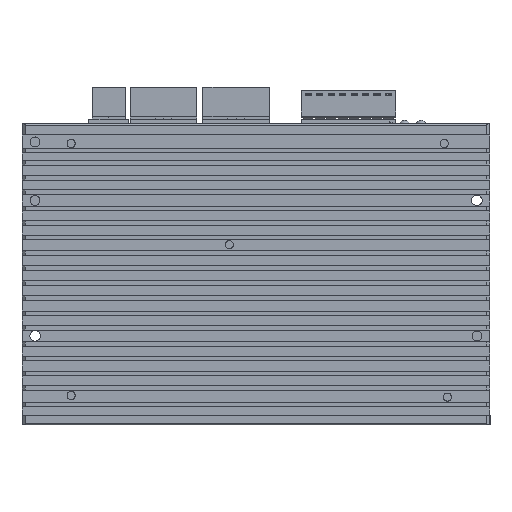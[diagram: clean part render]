
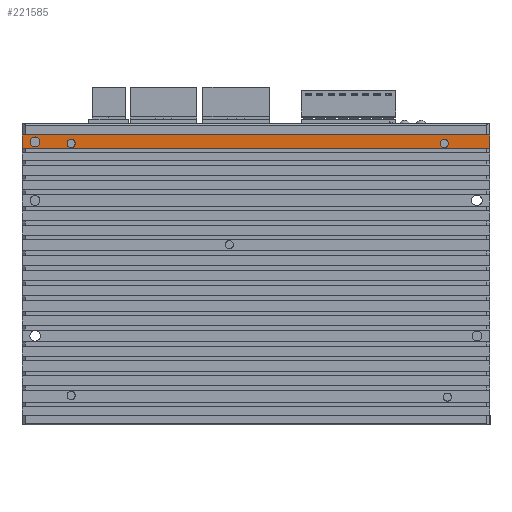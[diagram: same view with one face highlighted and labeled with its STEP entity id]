
A CAD part, front view. The second image highlights one B-rep face of the part: STEP entity #221585.
In plain terms, the highlighted planar face has unit normal (0, -1, 0).
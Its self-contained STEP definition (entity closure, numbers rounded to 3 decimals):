
#181690=DIRECTION('',(0.,0.,-1.));
#181691=VECTOR('',#181690,4.1);
#181692=CARTESIAN_POINT('',(-71.5,-3.5,
85.6));
#181693=LINE('',#181692,#181691);
#192783=DIRECTION('',(0.,0.,-1.));
#192784=VECTOR('',#192783,4.1);
#192785=CARTESIAN_POINT('',(71.5,-3.5,
85.6));
#192786=LINE('',#192785,#192784);
#192787=DIRECTION('',(-1.,0.,0.));
#192788=VECTOR('',#192787,143.);
#192789=CARTESIAN_POINT('',(71.5,-3.5,81.5));
#192790=LINE('',#192789,#192788);
#192791=CARTESIAN_POINT('',(57.499,-3.5,83.));
#192792=DIRECTION('',(0.,-1.,0.));
#192793=DIRECTION('',(-1.,0.,0.));
#192794=AXIS2_PLACEMENT_3D('',#192791,#192792,#192793);
#192796=CARTESIAN_POINT('',(57.499,-3.5,83.));
#192797=DIRECTION('',(0.,-1.,0.));
#192798=DIRECTION('',(1.,0.,0.));
#192799=AXIS2_PLACEMENT_3D('',#192796,#192797,#192798);
#192801=CARTESIAN_POINT('',(-56.5,-3.5,
83.));
#192802=DIRECTION('',(0.,-1.,0.));
#192803=DIRECTION('',(-1.,0.,0.));
#192804=AXIS2_PLACEMENT_3D('',#192801,#192802,#192803);
#192806=CARTESIAN_POINT('',(-56.5,-3.5,
83.));
#192807=DIRECTION('',(0.,-1.,0.));
#192808=DIRECTION('',(1.,0.,0.));
#192809=AXIS2_PLACEMENT_3D('',#192806,#192807,#192808);
#192811=CARTESIAN_POINT('',(-67.5,-3.5,83.5));
#192812=DIRECTION('',(0.,-1.,0.));
#192813=DIRECTION('',(0.,0.,-1.));
#192814=AXIS2_PLACEMENT_3D('',#192811,#192812,#192813);
#192816=CARTESIAN_POINT('',(-67.5,-3.5,83.5));
#192817=DIRECTION('',(0.,-1.,0.));
#192818=DIRECTION('',(0.,0.,1.));
#192819=AXIS2_PLACEMENT_3D('',#192816,#192817,#192818);
#192833=DIRECTION('',(-1.,0.,0.));
#192834=VECTOR('',#192833,143.);
#192835=CARTESIAN_POINT('',(71.5,-3.5,
85.6));
#192836=LINE('',#192835,#192834);
#199037=CARTESIAN_POINT('',(71.5,-3.5,81.5));
#199038=VERTEX_POINT('',#199037);
#199039=CARTESIAN_POINT('',(71.5,-3.5,
85.6));
#199040=VERTEX_POINT('',#199039);
#199132=CARTESIAN_POINT('',(-71.5,-3.5,
85.6));
#199133=VERTEX_POINT('',#199132);
#199299=CARTESIAN_POINT('',(-71.5,-3.5,81.5));
#199300=VERTEX_POINT('',#199299);
#199433=CARTESIAN_POINT('',(56.249,-3.5,83.));
#199434=CARTESIAN_POINT('',(58.749,-3.5,83.));
#199435=VERTEX_POINT('',#199433);
#199436=VERTEX_POINT('',#199434);
#199437=CARTESIAN_POINT('',(-57.75,-3.5,
83.));
#199438=CARTESIAN_POINT('',(-55.25,-3.5,
83.));
#199439=VERTEX_POINT('',#199437);
#199440=VERTEX_POINT('',#199438);
#199441=CARTESIAN_POINT('',(-67.5,-3.5,82.));
#199442=CARTESIAN_POINT('',(-67.5,-3.5,85.));
#199443=VERTEX_POINT('',#199441);
#199444=VERTEX_POINT('',#199442);
#221555=CARTESIAN_POINT('',(71.5,-3.5,
85.6));
#221556=DIRECTION('',(0.,1.,0.));
#221557=DIRECTION('',(0.,0.,-1.));
#221558=AXIS2_PLACEMENT_3D('',#221555,#221556,#221557);
#221559=PLANE('',#221558);
#221560=ORIENTED_EDGE('',*,*,#206437,.T.);
#221561=ORIENTED_EDGE('',*,*,#221545,.T.);
#221562=ORIENTED_EDGE('',*,*,#206563,.F.);
#221564=ORIENTED_EDGE('',*,*,#221563,.F.);
#221565=EDGE_LOOP('',(#221560,#221561,#221562,#221564));
#221566=FACE_OUTER_BOUND('',#221565,.F.);
#221568=ORIENTED_EDGE('',*,*,#221567,.T.);
#221570=ORIENTED_EDGE('',*,*,#221569,.T.);
#221571=EDGE_LOOP('',(#221568,#221570));
#221572=FACE_BOUND('',#221571,.F.);
#221574=ORIENTED_EDGE('',*,*,#221573,.T.);
#221576=ORIENTED_EDGE('',*,*,#221575,.T.);
#221577=EDGE_LOOP('',(#221574,#221576));
#221578=FACE_BOUND('',#221577,.F.);
#221580=ORIENTED_EDGE('',*,*,#221579,.T.);
#221582=ORIENTED_EDGE('',*,*,#221581,.T.);
#221583=EDGE_LOOP('',(#221580,#221582));
#221584=FACE_BOUND('',#221583,.F.);
#221585=ADVANCED_FACE('',(#221566,#221572,#221578,#221584),#221559,.F.);
#192795=CIRCLE('',#192794,1.25);
#192800=CIRCLE('',#192799,1.25);
#192805=CIRCLE('',#192804,1.25);
#192810=CIRCLE('',#192809,1.25);
#192815=CIRCLE('',#192814,1.5);
#192820=CIRCLE('',#192819,1.5);
#206437=EDGE_CURVE('',#199040,#199038,#192786,.T.);
#206563=EDGE_CURVE('',#199133,#199300,#181693,.T.);
#221545=EDGE_CURVE('',#199038,#199300,#192790,.T.);
#221563=EDGE_CURVE('',#199040,#199133,#192836,.T.);
#221567=EDGE_CURVE('',#199435,#199436,#192795,.T.);
#221569=EDGE_CURVE('',#199436,#199435,#192800,.T.);
#221573=EDGE_CURVE('',#199439,#199440,#192805,.T.);
#221575=EDGE_CURVE('',#199440,#199439,#192810,.T.);
#221579=EDGE_CURVE('',#199443,#199444,#192815,.T.);
#221581=EDGE_CURVE('',#199444,#199443,#192820,.T.);
